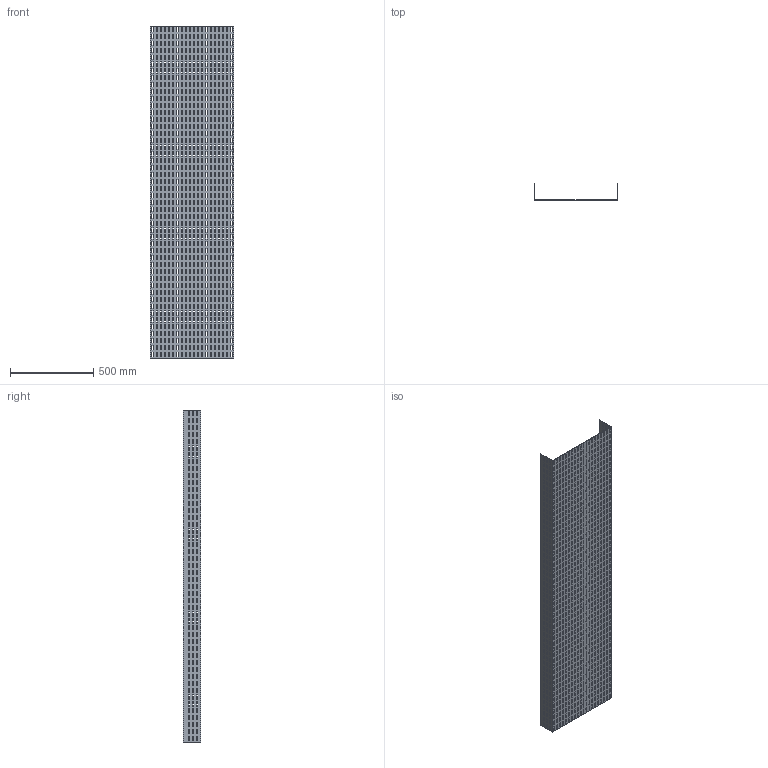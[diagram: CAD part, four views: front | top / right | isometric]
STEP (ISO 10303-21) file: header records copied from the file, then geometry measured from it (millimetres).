
FILE_DESCRIPTION (( 'STEP AP214' ), '1' );
FILE_NAME ('01F2D500.step', '2025-02-21T13:10:24', ( '' ), ( '' ), 'SwSTEP 2.0', 'SolidWorks 2023', '' );
FILE_SCHEMA (( 'AUTOMOTIVE_DESIGN' ));
Products named in the file (1): 01F2D500
Bounding box: 504 x 104 x 2000 mm (x, y, z)
Volume: 4170600 mm3; surface area: 2681687 mm2
Topology: 1 solids, 1 shells, 5002 faces, 15000 edges, 10000 vertices
Faces by surface type: plane 5002
Entity records: 170039 total; most frequent: CARTESIAN_POINT 30003, ORIENTED_EDGE 30000, DIRECTION 25006, VECTOR 15000, EDGE_CURVE 15000, LINE 15000, VERTEX_POINT 10000, EDGE_LOOP 7498
